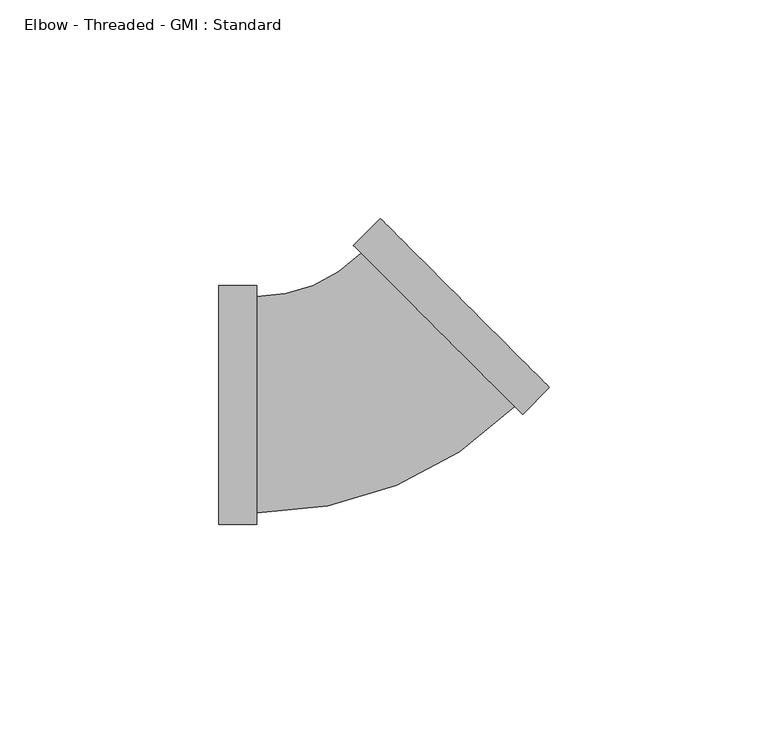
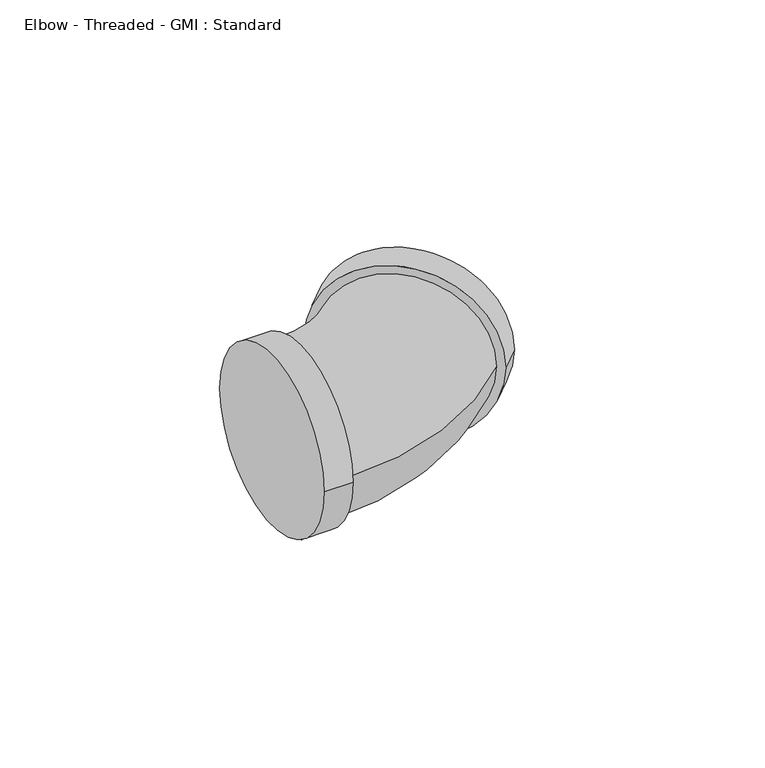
"""IFC4 building model written with IfcOpenShell, lengths in millimetres: pipe fitting geometry, Elbow - Threaded - GMI : Standard."""

import ifcopenshell
import ifcopenshell.guid

model = None  # the IFC model being written
_history = None  # IfcOwnerHistory: only IFC2X3 demands one
_inside = {}  # id of a spatial element -> (the spatial element, [elements in it])
_under = {}  # id of a project, library or spatial element -> (it, [spatial elements below it])
_declared = {}  # id of a project -> (the project, [libraries it declares])
_typed = {}  # id of a type object -> (the type object, [elements of that type])
_made_of = {}  # id of a material, layer set ... -> (it, [elements and type objects made of it])


def new_model(schema):
    """Start an empty IFC model of exactly this schema.

    Asked for "IFC4X3", IfcOpenShell would pick the latest addendum, in which some entities
    have other attributes; the version numbers below select the first issue.
    IFC2X3 requires an IfcOwnerHistory on every rooted entity: one is made here for all.
    """
    global model, _history
    if schema == "IFC4X3":
        model = ifcopenshell.file(schema_version=(4, 3, 0, 0))
    else:
        model = ifcopenshell.file(schema=schema)
    _inside.clear()
    _under.clear()
    _declared.clear()
    _typed.clear()
    _made_of.clear()
    _history = None
    if model.schema == "IFC2X3":
        org = make("IfcOrganization", Name="unknown")
        user = make(
            "IfcPersonAndOrganization",
            ThePerson=make("IfcPerson", FamilyName="unknown"),
            TheOrganization=org,
        )
        app = make(
            "IfcApplication",
            ApplicationDeveloper=org,
            Version="unknown",
            ApplicationFullName="unknown",
            ApplicationIdentifier="unknown",
        )
        _history = make(
            "IfcOwnerHistory",
            OwningUser=user,
            OwningApplication=app,
            ChangeAction="ADDED",
            CreationDate=0,
        )
    return model


def make(cls, **values):
    """One entity of the class cls with the attributes given. An attribute that is None is left unset."""
    return model.create_entity(
        cls, **{name: value for name, value in values.items() if value is not None}
    )


def rooted(cls, **values):
    """An entity with a GlobalId (a new one), such as an element, a storey or a relation."""
    return make(cls, GlobalId=ifcopenshell.guid.new(), OwnerHistory=_history, **values)


def si_unit(unit_type, name, prefix=None):
    """IfcSIUnit, for example si_unit("LENGTHUNIT", "METRE", prefix="MILLI")."""
    return make("IfcSIUnit", UnitType=unit_type, Prefix=prefix, Name=name)


def assignment(units):
    """IfcUnitAssignment: the units of a project."""
    return None if units is None else make("IfcUnitAssignment", Units=units)


def point(xyz):
    """IfcCartesianPoint."""
    return None if xyz is None else make("IfcCartesianPoint", Coordinates=xyz)


def direction(xyz):
    """IfcDirection."""
    return None if xyz is None else make("IfcDirection", DirectionRatios=xyz)


def frame(location, z_axis=None, x_axis=None):
    """IfcAxis2Placement3D, a coordinate frame: its origin and axes. An axis left out is left unset."""
    return make(
        "IfcAxis2Placement3D",
        Location=point(location),
        Axis=direction(z_axis),
        RefDirection=direction(x_axis),
    )


def origin():
    """The frame at (0, 0, 0) with its axes left unset."""
    return frame((0.0, 0.0, 0.0))


def place(relative_to, where):
    """IfcLocalPlacement: puts the frame where relative to a parent placement (None: the world)."""
    return make(
        "IfcLocalPlacement", PlacementRelTo=relative_to, RelativePlacement=where
    )


def context(
    kind, dimensions, precision=None, world=None, true_north=None, identifier=None
):
    """IfcGeometricRepresentationContext, for example the 3D "Model" context."""
    return make(
        "IfcGeometricRepresentationContext",
        ContextIdentifier=identifier,
        ContextType=kind,
        CoordinateSpaceDimension=dimensions,
        Precision=precision,
        WorldCoordinateSystem=world,
        TrueNorth=true_north,
    )


def project(units=None, contexts=None):
    """IfcProject with its units and contexts."""
    return rooted(
        "IfcProject",
        Name="project",
        RepresentationContexts=contexts,
        UnitsInContext=assignment(units),
    )


def spatial(cls, under=None, at=None, **own):
    """A site, building, storey or space (cls), placed at a placement, below another one or the project."""
    s = rooted(cls, ObjectPlacement=at, **own)
    if under is not None:
        _under.setdefault(under.id(), (under, []))[1].append(s)
    return s


def circle_curve(where, radius):
    """IfcCircle in the frame where."""
    return make("IfcCircle", Position=where, Radius=radius)


def ellipse_curve(where, semi_axis1, semi_axis2):
    """IfcEllipse in the frame where."""
    return make(
        "IfcEllipse", Position=where, SemiAxis1=semi_axis1, SemiAxis2=semi_axis2
    )


def trimmed(basis, trim1, trim2, sense, master):
    """IfcTrimmedCurve: the piece of a basis curve between two trims."""
    return make(
        "IfcTrimmedCurve",
        BasisCurve=basis,
        Trim1=trim1,
        Trim2=trim2,
        SenseAgreement=sense,
        MasterRepresentation=master,
    )


def shape(context_of_items, identifier, shape_type, items):
    """IfcShapeRepresentation: the items that make up one representation, for example the "Body"."""
    return make(
        "IfcShapeRepresentation",
        ContextOfItems=context_of_items,
        RepresentationIdentifier=identifier,
        RepresentationType=shape_type,
        Items=items,
    )


def source(mapping_origin, context_of_items, identifier, shape_type, items):
    """IfcRepresentationMap: a shape defined once, which mapped items show again and again."""
    return make(
        "IfcRepresentationMap",
        MappingOrigin=mapping_origin,
        MappedRepresentation=shape(context_of_items, identifier, shape_type, items),
    )


def transform(
    local_origin,
    x_axis=None,
    y_axis=None,
    z_axis=None,
    scale=None,
    scale2=None,
    scale3=None,
    uniform=True,
):
    """IfcCartesianTransformationOperator3D, or its non-uniform kind. x_axis, y_axis, z_axis: its Axis1, 2, 3."""
    if uniform:
        return make(
            "IfcCartesianTransformationOperator3D",
            Axis1=direction(x_axis),
            Axis2=direction(y_axis),
            LocalOrigin=point(local_origin),
            Scale=scale,
            Axis3=direction(z_axis),
        )
    return make(
        "IfcCartesianTransformationOperator3DnonUniform",
        Axis1=direction(x_axis),
        Axis2=direction(y_axis),
        LocalOrigin=point(local_origin),
        Scale=scale,
        Axis3=direction(z_axis),
        Scale2=scale2,
        Scale3=scale3,
    )


def mapped(mapping_source, mapping_target):
    """IfcMappedItem: shows the shape of a source again, moved by a transform."""
    return make(
        "IfcMappedItem", MappingSource=mapping_source, MappingTarget=mapping_target
    )


def made_of(thing, what):
    """Note that an element or type object is made of a material, layer set ...; save() writes the relation."""
    if what is not None:
        _made_of.setdefault(what.id(), (what, []))[1].append(thing)
    return thing


def element(
    cls,
    number,
    at=None,
    inside=None,
    cuts=None,
    type_object=None,
    material=None,
    context=None,
    identifier="Body",
    shape_type=None,
    held_by="IfcProductDefinitionShape",
    body=None,
    shapes=None,
    **own,
):
    """One element of the class cls, such as IfcWall. Its Tag is "e" and its number.

    at: its placement. inside: the storey or other place that contains it. cuts: it is an
    opening in that element (IfcRelVoidsElement). A single representation is given by context,
    identifier, shape_type and body (its items); several are given by shapes. held_by: the class
    of the entity that holds the representations. save() writes the other relations.
    """
    e = rooted(cls, Tag="e%d" % number, ObjectPlacement=at, **own)
    if body is not None:
        shapes = [shape(context, identifier, shape_type, body)]
    if shapes is not None:
        e.Representation = make(held_by, Representations=shapes)
    if inside is not None:
        _inside.setdefault(inside.id(), (inside, []))[1].append(e)
    if cuts is not None:
        rooted(
            "IfcRelVoidsElement", RelatingBuildingElement=cuts, RelatedOpeningElement=e
        )
    if type_object is not None:
        _typed.setdefault(type_object.id(), (type_object, []))[1].append(e)
    return made_of(e, material)


def aggregate(whole, parts):
    """IfcRelAggregates: a whole, such as a stair, and the parts it consists of."""
    return rooted("IfcRelAggregates", RelatingObject=whole, RelatedObjects=parts)


def save(model, path):
    """Write the relations noted so far, then the file.

    IfcRelAggregates (storeys below a building ...), IfcRelContainedInSpatialStructure (elements
    in a storey), IfcRelDefinesByType, IfcRelAssociatesMaterial and IfcRelDeclares: one each for
    every whole, place, type object, material and project.
    """
    for whole, parts in _under.values():
        aggregate(whole, parts)
    for where, things in _inside.values():
        rooted(
            "IfcRelContainedInSpatialStructure",
            RelatedElements=things,
            RelatingStructure=where,
        )
    for kind, things in _typed.values():
        rooted("IfcRelDefinesByType", RelatedObjects=things, RelatingType=kind)
    for what, things in _made_of.values():
        rooted("IfcRelAssociatesMaterial", RelatedObjects=things, RelatingMaterial=what)
    for by, libraries in _declared.values():
        rooted("IfcRelDeclares", RelatingContext=by, RelatedDefinitions=libraries)
    model.write(path)


def plane_surface(at):
    """IfcPlane: the flat surface through the origin of the frame at, square to its z axis."""
    return make("IfcPlane", Position=at)


def cylinder_surface(at, radius):
    """IfcCylindricalSurface: all points at the distance radius from the z axis of the frame at."""
    return make("IfcCylindricalSurface", Position=at, Radius=radius)


def revolved_surface(curve, axis_point, axis_direction):
    """IfcSurfaceOfRevolution: the curve turned about the line through axis_point along axis_direction."""
    return make(
        "IfcSurfaceOfRevolution",
        SweptCurve=make("IfcArbitraryOpenProfileDef", ProfileType="CURVE", Curve=curve),
        AxisPosition=make("IfcAxis1Placement", Location=point(axis_point), Axis=direction(axis_direction)),
    )


def advanced_brep(points, edges, surfaces, faces):
    """IfcAdvancedBrep: a solid bounded by faces that lie on surfaces and meet in shared edges.

    An edge is (start, end): straight between two places in points (the first is 0);
    or (start, end, curve); or (start, end, curve, False) where it runs against its curve.
    A face is (place in surfaces, loops), or (place, loops, False) where it looks against
    its surface's normal. A loop lists edges by number (the first is 1), with a minus sign
    where the edge is run from its end to its start. The first loop is the outer one.
    """
    corners = [point(p) for p in points]
    vertices = [make("IfcVertexPoint", VertexGeometry=c) for c in corners]
    made = []
    for start, end, *more in edges:
        made.append(
            make(
                "IfcEdgeCurve",
                EdgeStart=vertices[start],
                EdgeEnd=vertices[end],
                EdgeGeometry=more[0] if more else make("IfcPolyline", Points=[corners[start], corners[end]]),
                SameSense=more[1] if len(more) > 1 else True,
            )
        )
    hull = []
    for where, loops, *sense in faces:
        bounds = []
        for j, loop in enumerate(loops):
            ring = [make("IfcOrientedEdge", EdgeElement=made[abs(k) - 1], Orientation=k > 0) for k in loop]
            bounds.append(
                make(
                    "IfcFaceOuterBound" if j == 0 else "IfcFaceBound",
                    Bound=make("IfcEdgeLoop", EdgeList=ring),
                    Orientation=True,
                )
            )
        hull.append(make("IfcAdvancedFace", Bounds=bounds, FaceSurface=surfaces[where], SameSense=sense[0] if sense else True))
    return make("IfcAdvancedBrep", Outer=make("IfcClosedShell", CfsFaces=hull))


def elbow_threaded_gmi_standard_a8a6fa84(model_context):
    return source(origin(), model_context, "Body", "AdvancedBrep", [
        advanced_brep(
        [(-33.0, -27.35, 0.0), (-33.0, 27.35, 0.0), (-24.3, -27.35, 0.0), (-24.3, 27.35, 0.0), (-24.3, -24.78, 0.0), (-24.3, 24.78, 0.0), (36.5220652, -2.1566757, 0.0), (-2.1566757, 36.5220652, 0.0), (-0.3394113, 34.7048008, 0.0), (34.7048008, -0.3394113, 0.0), (42.6738942, 3.9951533, 0.0), (3.9951533, 42.6738942, 0.0)],
        [
            (0, 1, circle_curve(frame((-33.0, 0.0, 0.0), z_axis=(-1.0, 0.0, 0.0), x_axis=(0.0, 1.0, 0.0)), 27.35)),
            (1, 0, circle_curve(frame((-33.0, 0.0, 0.0), z_axis=(-1.0, 0.0, 0.0), x_axis=(0.0, 1.0, 0.0)), 27.35)),
            (2, 3, circle_curve(frame((-24.3, 0.0, 0.0), z_axis=(1.0, 0.0, 0.0), x_axis=(0.0, 1.0, 0.0)), 27.35)),
            (3, 2, circle_curve(frame((-24.3, 0.0, 0.0), z_axis=(1.0, 0.0, 0.0), x_axis=(0.0, 1.0, 0.0)), 27.35)),
            (4, 5, circle_curve(frame((-24.3, 0.0, 0.0), z_axis=(-1.0, 0.0, 0.0), x_axis=(0.0, 1.0, 0.0)), 24.78)),
            (5, 4, circle_curve(frame((-24.3, 0.0, 0.0), z_axis=(-1.0, 0.0, 0.0), x_axis=(0.0, 1.0, 0.0)), 24.78)),
            (0, 2),
            (3, 1),
            (6, 7, circle_curve(frame((17.1826948, 17.1826948, 0.0), z_axis=(-0.7071067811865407, -0.7071067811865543, 0.0), x_axis=(-0.7071067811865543, 0.7071067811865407, 0.0)), 27.35)),
            (7, 6, circle_curve(frame((17.1826948, 17.1826948, 0.0), z_axis=(-0.7071067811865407, -0.7071067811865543, 0.0), x_axis=(-0.7071067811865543, 0.7071067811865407, 0.0)), 27.35)),
            (8, 9, circle_curve(frame((17.1826948, 17.1826948, 0.0), z_axis=(0.7071067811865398, 0.7071067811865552, 0.0), x_axis=(-0.7071067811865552, 0.7071067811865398, 0.0)), 24.78)),
            (9, 8, circle_curve(frame((17.1826948, 17.1826948, 0.0), z_axis=(0.7071067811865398, 0.7071067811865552, 0.0), x_axis=(-0.7071067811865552, 0.7071067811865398, 0.0)), 24.78)),
            (10, 11, circle_curve(frame((23.3345238, 23.3345238, 0.0), z_axis=(0.7071067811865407, 0.7071067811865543, 0.0), x_axis=(-0.7071067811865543, 0.7071067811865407, 0.0)), 27.35)),
            (11, 10, circle_curve(frame((23.3345238, 23.3345238, 0.0), z_axis=(0.7071067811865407, 0.7071067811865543, 0.0), x_axis=(-0.7071067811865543, 0.7071067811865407, 0.0)), 27.35)),
            (6, 10),
            (11, 7),
            (8, 5, circle_curve(frame((-24.3, 58.6653896, 0.0), z_axis=(0.0, 0.0, -1.0), x_axis=(0.0, -1.0, 0.0)), 33.8853896)),
            (4, 9, circle_curve(frame((-24.3, 58.6653896, 0.0), z_axis=(0.0, 0.0, 1.0), x_axis=(0.0, -1.0, 0.0)), 83.4453896)),
        ],
        [
            plane_surface(frame((-33.0, 0.0, 0.0), z_axis=(-1.0, 0.0, 0.0), x_axis=(0.0, 0.0, 1.0))),
            plane_surface(frame((-24.3, 0.0, 0.0), z_axis=(1.0, 0.0, 0.0), x_axis=(0.0, 0.0, 1.0))),
            cylinder_surface(frame((-33.0, 0.0, 0.0), z_axis=(-1.0, 0.0, 0.0), x_axis=(0.0, 1.0, 0.0)), 27.35),
            plane_surface(frame((17.1826948, 17.1826948, 0.0), z_axis=(-0.7071067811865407, -0.7071067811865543, 0.0), x_axis=(0.0, 0.0, 1.0))),
            plane_surface(frame((23.3345238, 23.3345238, 0.0), z_axis=(0.7071067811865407, 0.7071067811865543, 0.0), x_axis=(0.0, 0.0, 1.0))),
            cylinder_surface(frame((17.1826948, 17.1826948, 0.0), z_axis=(-0.7071067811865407, -0.7071067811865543, 0.0), x_axis=(-0.7071067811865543, 0.7071067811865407, 0.0)), 27.35),
            revolved_surface(trimmed(ellipse_curve(frame((-24.3, 0.0, 0.0), z_axis=(-1.0, 0.0, 0.0), x_axis=(0.0, 1.0, 0.0)), 24.78, 24.78), [point((-24.3, -24.78, 0.0))], [point((-24.3, 24.78, 0.0))], True, "CARTESIAN"), (-24.3, 58.6653896, 0.0), (0.0, 0.0, 1.0)),
            revolved_surface(trimmed(ellipse_curve(frame((-24.3, 0.0, 0.0), z_axis=(-1.0, 0.0, 0.0), x_axis=(0.0, 1.0, 0.0)), 24.78, 24.78), [point((-24.3, 24.78, 0.0))], [point((-24.3, -24.78, 0.0))], True, "CARTESIAN"), (-24.3, 58.6653896, 0.0), (0.0, 0.0, 1.0)),
        ],
        [
            (0, [[1, 2]]),
            (1, [[3, 4], [5, 6]]),
            (2, [[-1, 7, -4, 8]]),
            (2, [[-2, -8, -3, -7]]),
            (3, [[9, 10], [11, 12]]),
            (4, [[13, 14]]),
            (5, [[-9, 15, -14, 16]]),
            (5, [[-10, -16, -13, -15]]),
            (6, [[17, -5, 18, -11]]),
            (7, [[-17, -12, -18, -6]]),
        ],
    ),
    ])


if __name__ == "__main__":
    model = new_model("IFC4")
    model_context = context("Model", 3, world=origin())
    ifc_project = project(units=[si_unit("LENGTHUNIT", "METRE", prefix="MILLI")], contexts=[model_context])
    site = spatial("IfcSite", under=ifc_project)
    building = spatial("IfcBuilding", under=site)
    placement = place(None, origin())
    elbow_threaded_gmi_standard_shape = elbow_threaded_gmi_standard_a8a6fa84(model_context)
    element("IfcPipeFitting", 1, ObjectType="Elbow - Threaded - GMI : Standard", at=placement, inside=building, context=model_context, shape_type="MappedRepresentation", body=[
        mapped(elbow_threaded_gmi_standard_shape, transform((0.0, 0.0, 0.0), x_axis=(1.0, 0.0, 0.0), y_axis=(0.0, 1.0, 0.0), z_axis=(0.0, 0.0, 1.0))),
    ])
    save(model, "model.ifc")
